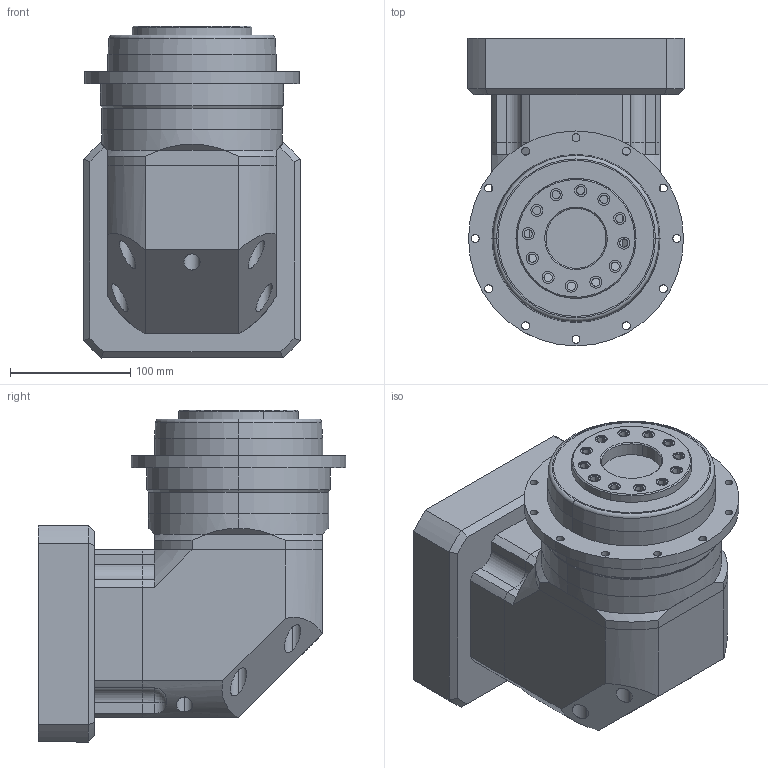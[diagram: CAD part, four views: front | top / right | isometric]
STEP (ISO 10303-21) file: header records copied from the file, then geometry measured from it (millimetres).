
FILE_DESCRIPTION (( 'STEP AP214' ), '1' );
FILE_NAME ('M12.STEP', '2021-03-25T06:41:23', ( '' ), ( '' ), 'SwSTEP 2.0', 'SolidWorks 2016', '' );
FILE_SCHEMA (( 'AUTOMOTIVE_DESIGN' ));
Length unit declared in the file: millimetre
Products named in the file (1): M12
Bounding box: 180 x 256.5 x 276.5 mm (x, y, z)
Surface area: 362103.8 mm2 (no closed solid volume)
Topology: 0 solids, 21 shells, 386 faces, 1168 edges, 802 vertices
Faces by surface type: cylinder 186, plane 142, cone 32, torus 24, bspline 2
Entity records: 18188 total; most frequent: CARTESIAN_POINT 3158, DIRECTION 2416, ORIENTED_EDGE 1961, EDGE_CURVE 1162, AXIS2_PLACEMENT_3D 954, VERTEX_POINT 802, CIRCLE 569, EDGE_LOOP 510
